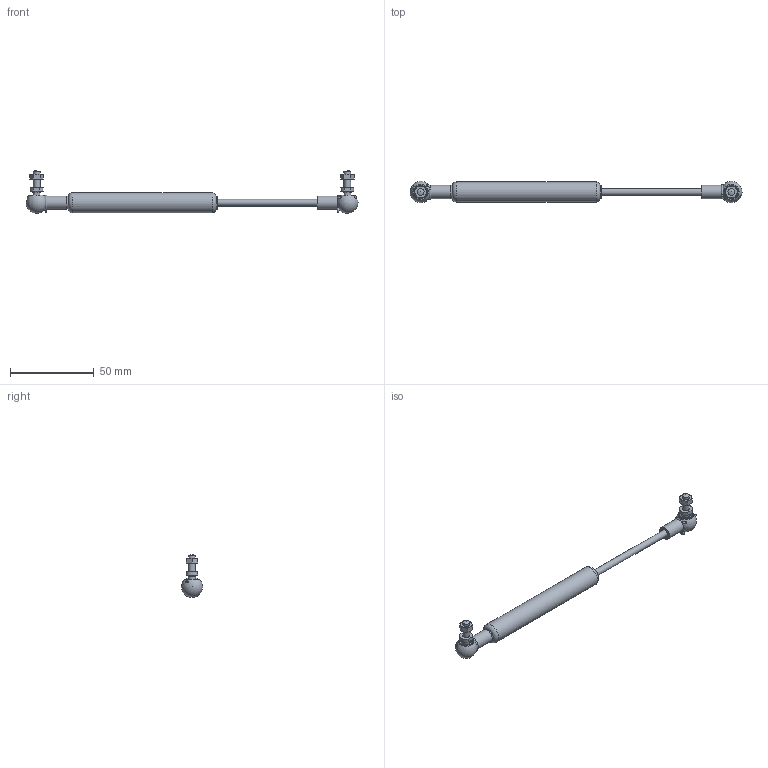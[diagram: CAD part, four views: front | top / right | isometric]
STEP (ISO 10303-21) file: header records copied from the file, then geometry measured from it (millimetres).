
FILE_DESCRIPTION(/* description */ ('STEP AP203'),/* implementation_level */ '2;1');
FILE_NAME(/* name */ 'Bansbach+F4F4-8G-060-186--0XX_80N(00)',/* time_stamp */ '2026-05-12T08:47:01+02:00',/* author */ ('License CC BY-ND 4.0'),/* organization */ ('CADENAS'),/* preprocessor_version */ 'ST-DEVELOPER v20',/* originating_system */ 'PARTsolutions',/* authorisation */ ' ');
FILE_SCHEMA (('CONFIG_CONTROL_DESIGN'));
Length unit declared in the file: millimetre
Products named in the file (8): Bansbach+F4F4-8G-060-186--0XX/80N(00); -4/12(6030F4); F4-4/12(6030); F41W2; F41W1; F5K1; F5K2; F46GZ1
Assembly tree (12 placements, depth 2):
  Bansbach+F4F4-8G-060-186--0XX/80N(00)
    -4/12(6030F4)
    F4-4/12(6030)
    F41W2  x2
    F41W1  x2
    F5K1  x2
    F5K2  x2
    F46GZ1  x2
Bounding box: 198.8 x 12.8 x 25.58 mm (x, y, z)
Volume: 8977.5 mm3; surface area: 11961.1 mm2
Topology: 12 solids, 12 shells, 156 faces, 303 edges, 186 vertices
Faces by surface type: plane 57, cone 38, cylinder 37, torus 16, sphere 8
Full cylindrical faces by diameter (mm): 1 x6, 1.3 x2, 3.242 x2, 4 x8, 7.9 x1, 8 x7, 8.8 x1, 10.2 x2, 10.8 x3, 12 x1
Entity records: 2207 total; most frequent: CARTESIAN_POINT 446, DIRECTION 366, ORIENTED_EDGE 230, AXIS2_PLACEMENT_3D 177, FACE_BOUND 149, EDGE_LOOP 148, EDGE_CURVE 115, VERTEX_POINT 94
